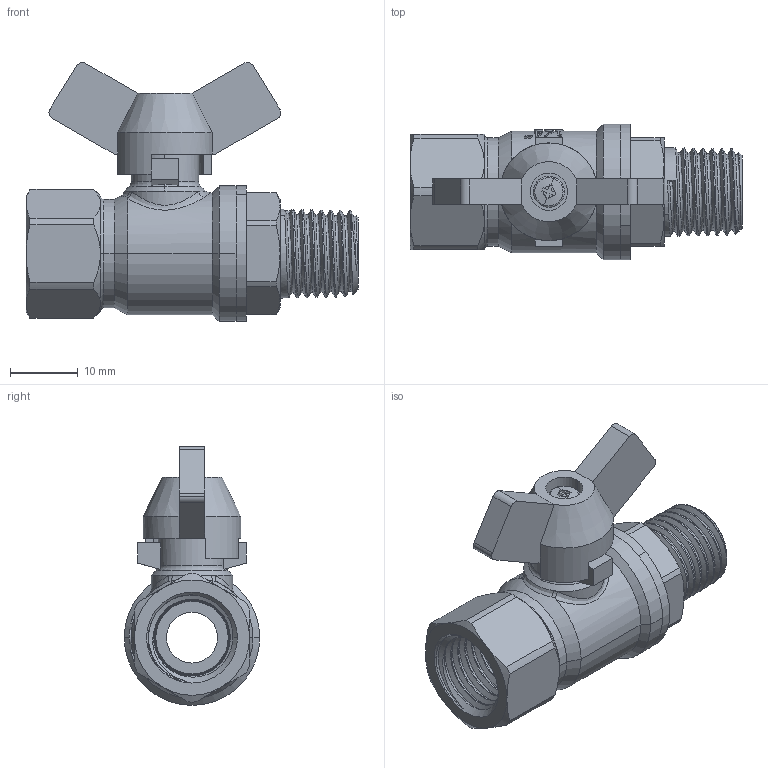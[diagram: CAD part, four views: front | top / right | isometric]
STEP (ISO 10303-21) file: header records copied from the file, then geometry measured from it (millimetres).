
FILE_DESCRIPTION(('Open CASCADE Model'),'2;1');
FILE_NAME('Open CASCADE Shape Model','2021-12-15T12:35:02',('Author'),( 'Open CASCADE'),'Open CASCADE STEP processor 7.3','Open CASCADE 7.3' ,'Unknown');
FILE_SCHEMA(('AUTOMOTIVE_DESIGN { 1 0 10303 214 1 1 1 1 }'));
Length unit declared in the file: millimetre
Products named in the file (11): Open CASCADE STEP translator 7.3 1; Open CASCADE STEP translator 7.3 1.1; Open CASCADE STEP translator 7.3 1.2; Open CASCADE STEP translator 7.3 1.3; Open CASCADE STEP translator 7.3 1.4; Open CASCADE STEP translator 7.3 1.5; Open CASCADE STEP translator 7.3 1.6; Open CASCADE STEP translator 7.3 1.7; Open CASCADE STEP translator 7.3 1.8; Open CASCADE STEP translator 7.3 1.9; Open CASCADE STEP translator 7.3 1.10
Assembly tree (10 placements, depth 2):
  Open CASCADE STEP translator 7.3 1
    Open CASCADE STEP translator 7.3 1.1
    Open CASCADE STEP translator 7.3 1.2
    Open CASCADE STEP translator 7.3 1.3
    Open CASCADE STEP translator 7.3 1.4
    Open CASCADE STEP translator 7.3 1.5
    Open CASCADE STEP translator 7.3 1.6
    Open CASCADE STEP translator 7.3 1.7
    Open CASCADE STEP translator 7.3 1.8
    Open CASCADE STEP translator 7.3 1.9
    Open CASCADE STEP translator 7.3 1.10
Bounding box: 49 x 20 x 38.21 mm (x, y, z)
Volume: 9607.8 mm3; surface area: 10286.5 mm2
Topology: 10 solids, 10 shells, 541 faces, 1386 edges, 888 vertices
Faces by surface type: cylinder 156, plane 149, bspline 102, cone 90, torus 34, sphere 6, revolution 4
Entity records: 87784 total; most frequent: CARTESIAN_POINT 63280, DIRECTION 3570, ORIENTED_EDGE 2764, PCURVE 2764, DEFINITIONAL_REPRESENTATION 2764, LINE 1813, VECTOR 1813, B_SPLINE_CURVE_WITH_KNOTS 1594
